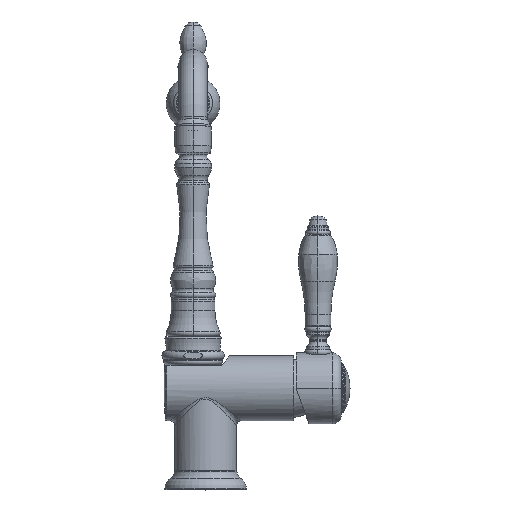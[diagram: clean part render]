
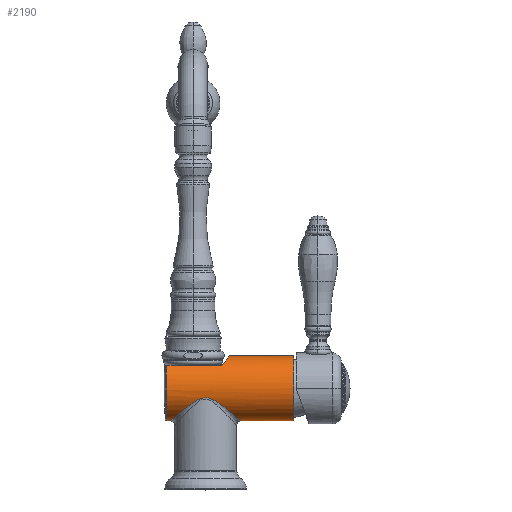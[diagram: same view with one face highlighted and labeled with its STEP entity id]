
A CAD part, top view. The second image highlights one B-rep face of the part: STEP entity #2190.
In plain terms, the highlighted cylindrical face has radius 20.75 mm (diameter 41.5 mm), a partial arc.
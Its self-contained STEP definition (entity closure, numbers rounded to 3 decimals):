
#643=CARTESIAN_POINT('',(-16.716,67.5,14.595));
#669=CARTESIAN_POINT('',(-16.716,52.75,0.));
#670=DIRECTION('',(-1.,0.,0.));
#671=DIRECTION('',(0.,-1.,0.));
#672=AXIS2_PLACEMENT_3D('',#669,#670,#671);
#674=DIRECTION('',(1.,0.,0.));
#675=VECTOR('',#674,35.134);
#676=CARTESIAN_POINT('',(-16.716,67.5,14.595));
#677=LINE('',#676,#675);
#678=CARTESIAN_POINT('',(23.5,73.5,0.));
#679=CARTESIAN_POINT('',(23.5,73.5,0.41));
#680=CARTESIAN_POINT('',(23.479,73.476,1.232));
#681=CARTESIAN_POINT('',(23.381,73.366,2.463));
#682=CARTESIAN_POINT('',(23.219,73.181,3.696));
#683=CARTESIAN_POINT('',(22.988,72.919,4.931));
#684=CARTESIAN_POINT('',(22.689,72.577,6.166));
#685=CARTESIAN_POINT('',(22.316,72.15,7.402));
#686=CARTESIAN_POINT('',(21.869,71.634,8.635));
#687=CARTESIAN_POINT('',(21.344,71.023,9.864));
#688=CARTESIAN_POINT('',(20.738,70.312,11.083));
#689=CARTESIAN_POINT('',(20.049,69.494,12.285));
#690=CARTESIAN_POINT('',(19.28,68.566,13.461));
#691=CARTESIAN_POINT('',(18.714,67.869,14.222));
#692=CARTESIAN_POINT('',(18.419,67.5,14.595));
#694=CARTESIAN_POINT('',(64.5,52.75,0.));
#695=DIRECTION('',(1.,0.,0.));
#696=DIRECTION('',(0.,1.,0.));
#697=AXIS2_PLACEMENT_3D('',#694,#695,#696);
#699=CARTESIAN_POINT('',(30.75,32.,0.));
#700=CARTESIAN_POINT('',(30.75,32.,0.365));
#701=CARTESIAN_POINT('',(30.727,32.019,1.098));
#702=CARTESIAN_POINT('',(30.621,32.108,2.207));
#703=CARTESIAN_POINT('',(30.442,32.257,3.323));
#704=CARTESIAN_POINT('',(30.187,32.471,4.446));
#705=CARTESIAN_POINT('',(29.851,32.751,5.574));
#706=CARTESIAN_POINT('',(29.429,33.103,6.71));
#707=CARTESIAN_POINT('',(28.915,33.53,7.853));
#708=CARTESIAN_POINT('',(28.302,34.039,9.));
#709=CARTESIAN_POINT('',(27.581,34.635,10.149));
#710=CARTESIAN_POINT('',(26.743,35.325,11.294));
#711=CARTESIAN_POINT('',(25.78,36.114,12.428));
#712=CARTESIAN_POINT('',(24.683,37.006,13.541));
#713=CARTESIAN_POINT('',(23.445,38.001,14.621));
#714=CARTESIAN_POINT('',(22.058,39.102,15.655));
#715=CARTESIAN_POINT('',(20.536,40.288,16.615));
#716=CARTESIAN_POINT('',(18.85,41.563,17.497));
#717=CARTESIAN_POINT('',(17.218,42.743,18.191));
#718=CARTESIAN_POINT('',(15.765,43.733,18.697));
#719=CARTESIAN_POINT('',(14.439,44.569,19.075));
#720=CARTESIAN_POINT('',(13.233,45.254,19.352));
#721=CARTESIAN_POINT('',(12.138,45.796,19.552));
#722=CARTESIAN_POINT('',(11.147,46.203,19.691));
#723=CARTESIAN_POINT('',(10.26,46.487,19.783));
#724=CARTESIAN_POINT('',(9.461,46.669,19.839));
#725=CARTESIAN_POINT('',(8.716,46.771,19.87));
#726=CARTESIAN_POINT('',(7.997,46.803,19.88));
#727=CARTESIAN_POINT('',(7.276,46.77,19.87));
#728=CARTESIAN_POINT('',(6.531,46.667,19.839));
#729=CARTESIAN_POINT('',(5.732,46.484,19.782));
#730=CARTESIAN_POINT('',(4.845,46.2,19.69));
#731=CARTESIAN_POINT('',(3.856,45.793,19.551));
#732=CARTESIAN_POINT('',(2.761,45.251,19.351));
#733=CARTESIAN_POINT('',(1.556,44.566,19.074));
#734=CARTESIAN_POINT('',(0.23,43.73,18.696));
#735=CARTESIAN_POINT('',(-1.223,42.739,18.189));
#736=CARTESIAN_POINT('',(-2.853,41.561,17.496));
#737=CARTESIAN_POINT('',(-4.535,40.289,16.616));
#738=CARTESIAN_POINT('',(-6.059,39.102,15.654));
#739=CARTESIAN_POINT('',(-7.445,38.001,14.621));
#740=CARTESIAN_POINT('',(-8.683,37.005,13.541));
#741=CARTESIAN_POINT('',(-9.78,36.114,12.428));
#742=CARTESIAN_POINT('',(-10.743,35.325,11.294));
#743=CARTESIAN_POINT('',(-11.581,34.635,10.149));
#744=CARTESIAN_POINT('',(-12.302,34.039,9.));
#745=CARTESIAN_POINT('',(-12.915,33.53,7.853));
#746=CARTESIAN_POINT('',(-13.43,33.102,6.71));
#747=CARTESIAN_POINT('',(-13.851,32.751,5.573));
#748=CARTESIAN_POINT('',(-14.187,32.471,4.445));
#749=CARTESIAN_POINT('',(-14.442,32.257,3.323));
#750=CARTESIAN_POINT('',(-14.622,32.108,2.206));
#751=CARTESIAN_POINT('',(-14.727,32.019,1.098));
#752=CARTESIAN_POINT('',(-14.75,32.,0.365));
#753=CARTESIAN_POINT('',(-14.75,32.,0.));
#765=DIRECTION('',(-1.,0.,0.));
#766=VECTOR('',#765,1.966);
#767=CARTESIAN_POINT('',(-14.75,32.,0.));
#768=LINE('',#767,#766);
#769=CARTESIAN_POINT('',(-14.75,32.,0.));
#823=CARTESIAN_POINT('',(30.75,32.,0.));
#825=DIRECTION('',(-1.,0.,0.));
#826=VECTOR('',#825,33.75);
#827=CARTESIAN_POINT('',(64.5,32.,0.));
#828=LINE('',#827,#826);
#834=DIRECTION('',(-1.,0.,0.));
#835=VECTOR('',#834,41.);
#836=CARTESIAN_POINT('',(64.5,73.5,0.));
#837=LINE('',#836,#835);
#1238=CARTESIAN_POINT('',(64.5,73.5,0.));
#1239=CARTESIAN_POINT('',(64.5,32.,0.));
#1240=VERTEX_POINT('',#1238);
#1241=VERTEX_POINT('',#1239);
#1246=VERTEX_POINT('',#769);
#1247=VERTEX_POINT('',#823);
#1250=VERTEX_POINT('',#678);
#1251=VERTEX_POINT('',#692);
#1258=VERTEX_POINT('',#643);
#1259=CARTESIAN_POINT('',(-16.716,32.,0.));
#1260=VERTEX_POINT('',#1259);
#2169=CARTESIAN_POINT('',(-22.65,52.75,0.));
#2170=DIRECTION('',(1.,0.,0.));
#2171=DIRECTION('',(0.,-1.,0.));
#2172=AXIS2_PLACEMENT_3D('',#2169,#2170,#2171);
#2173=CYLINDRICAL_SURFACE('',#2172,20.75);
#2174=ORIENTED_EDGE('',*,*,#2156,.T.);
#2175=ORIENTED_EDGE('',*,*,#2142,.T.);
#2177=ORIENTED_EDGE('',*,*,#2176,.F.);
#2179=ORIENTED_EDGE('',*,*,#2178,.F.);
#2181=ORIENTED_EDGE('',*,*,#2180,.T.);
#2183=ORIENTED_EDGE('',*,*,#2182,.T.);
#2185=ORIENTED_EDGE('',*,*,#2184,.T.);
#2187=ORIENTED_EDGE('',*,*,#2186,.T.);
#2188=EDGE_LOOP('',(#2174,#2175,#2177,#2179,#2181,#2183,#2185,#2187));
#2189=FACE_OUTER_BOUND('',#2188,.F.);
#2190=ADVANCED_FACE('',(#2189),#2173,.T.);
#673=CIRCLE('',#672,20.75);
#693=B_SPLINE_CURVE_WITH_KNOTS('',3,(#678,#679,#680,#681,#682,#683,#684,#685,
#686,#687,#688,#689,#690,#691,#692),.UNSPECIFIED.,.F.,.F.,(4,1,1,1,1,1,1,1,1,1,
1,1,4),(0.,0.083,0.167,0.25,0.333,
0.417,0.5,0.583,0.667,0.75,
0.833,0.917,1.),.UNSPECIFIED.);
#698=CIRCLE('',#697,20.75);
#754=B_SPLINE_CURVE_WITH_KNOTS('',3,(#699,#700,#701,#702,#703,#704,#705,#706,
#707,#708,#709,#710,#711,#712,#713,#714,#715,#716,#717,#718,#719,#720,#721,#722,
#723,#724,#725,#726,#727,#728,#729,#730,#731,#732,#733,#734,#735,#736,#737,#738,
#739,#740,#741,#742,#743,#744,#745,#746,#747,#748,#749,#750,#751,#752,#753),
.UNSPECIFIED.,.F.,.F.,(4,1,1,1,1,1,1,1,1,1,1,1,1,1,1,1,1,1,1,1,1,1,1,1,1,1,1,1,
1,1,1,1,1,1,1,1,1,1,1,1,1,1,1,1,1,1,1,1,1,1,1,1,4),(0.,0.019,
0.038,0.058,0.077,0.096,
0.115,0.135,0.154,0.173,
0.192,0.212,0.231,0.25,0.269,
0.288,0.308,0.327,0.346,
0.365,0.385,0.404,0.423,
0.442,0.462,0.481,0.5,0.519,
0.538,0.558,0.577,0.596,
0.615,0.635,0.654,0.673,
0.692,0.712,0.731,0.75,0.769,
0.788,0.808,0.827,0.846,
0.865,0.885,0.904,0.923,
0.942,0.962,0.981,1.),.UNSPECIFIED.);
#2142=EDGE_CURVE('',#1258,#1251,#677,.T.);
#2156=EDGE_CURVE('',#1260,#1258,#673,.T.);
#2176=EDGE_CURVE('',#1250,#1251,#693,.T.);
#2178=EDGE_CURVE('',#1240,#1250,#837,.T.);
#2180=EDGE_CURVE('',#1240,#1241,#698,.T.);
#2182=EDGE_CURVE('',#1241,#1247,#828,.T.);
#2184=EDGE_CURVE('',#1247,#1246,#754,.T.);
#2186=EDGE_CURVE('',#1246,#1260,#768,.T.);
